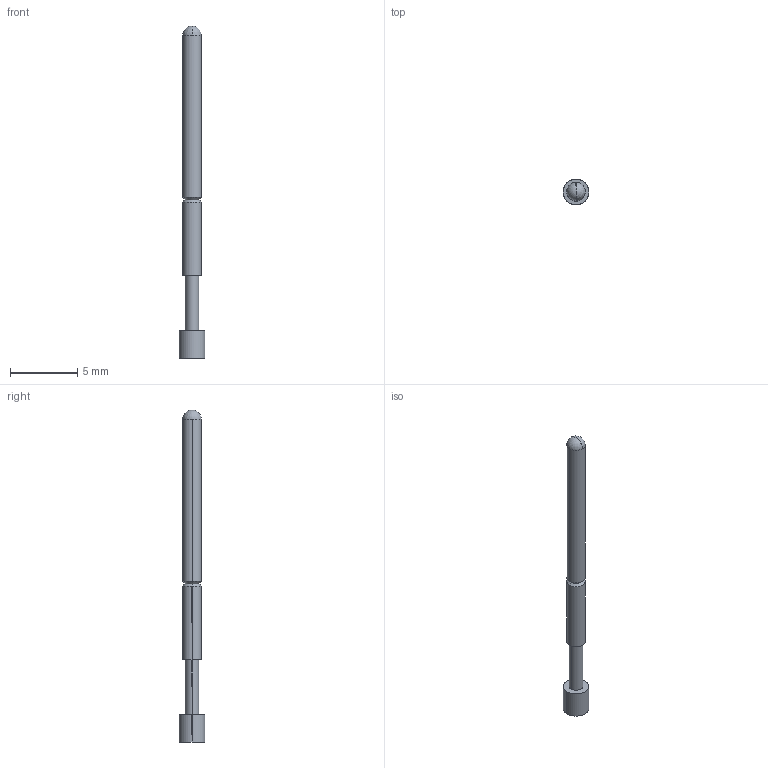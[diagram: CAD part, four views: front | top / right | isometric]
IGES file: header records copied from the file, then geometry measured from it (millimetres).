
Start section: SolidWorks IGES file using analytic representation for surfaces
Global section: file name: \\CODA-VM-SBS\RedirectedFolders\georged\My Documents\CODA CAD FILES\GENERAL PURPOSE TEST PROBES\SHORT REACH TEST PROBES\PA3\PA3F.IGS; native system: SolidWorks 2024; preprocessor: SolidWorks 2024; author: GeorgeD; date: 240710.144939; units: millimetre
Bounding box: 1.9 x 1.9 x 24.64 mm (x, y, z)
Surface area: 110.8 mm2 (no closed solid volume)
Topology: 0 solids, 0 shells, 17 faces, 172 edges, 170 vertices
Faces by surface type: revolution 14, bspline 3
